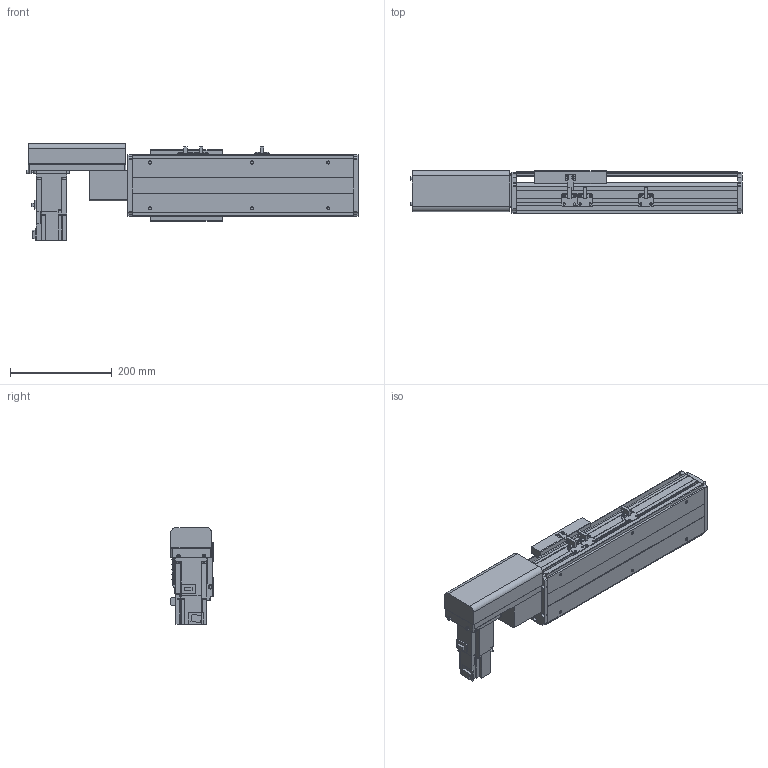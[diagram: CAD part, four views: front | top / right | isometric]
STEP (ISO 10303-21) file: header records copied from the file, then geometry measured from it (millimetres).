
FILE_DESCRIPTION( ( 'STEP AP214' ), '1' );
FILE_NAME( 'x:/temp/worker_27/temp/exporttempdir_6708_0_RRjFf/format_0/PBS120-P40-S150-R-T40-C1-N(0).stp', '2022-06-06T00:05:17', ( 'License CC BY-ND 4.0' ), ( 'CADENAS' ), ' ', 'PARTsolutions', ' ' );
FILE_SCHEMA( ( 'AUTOMOTIVE_DESIGN { 1 0 10303 214 1 1 1 1 }' ) );
Length unit declared in the file: millimetre
Products named in the file (7): PBS120-P40-S150-R-T40-C1-N(0); _PBS120-S150()_body; _PBS120T-R_motors; _T40-p1; _PBS120_sliser; _PBS120_plant; _PBS120_sensor
Assembly tree (8 placements, depth 2):
  PBS120-P40-S150-R-T40-C1-N(0)
    _PBS120-S150()_body
    _PBS120T-R_motors
    _T40-p1
    _PBS120_sliser
    _PBS120_plant
    _PBS120_sensor  x3
Bounding box: 651 x 83 x 189.7 mm (x, y, z)
Volume: 3194587.3 mm3; surface area: 553299.2 mm2
Topology: 8 solids, 8 shells, 798 faces, 2106 edges, 1357 vertices
Faces by surface type: plane 539, cylinder 219, cone 38, torus 2
Full cylindrical faces by diameter (mm): 2.459 x6, 3.242 x4, 4 x2, 4.134 x4, 4.5 x10, 4.917 x10, 5.5 x11, 6 x2, 6.6 x1, 7 x2, 8.5 x4, 9 x4, 12 x1, 14 x1, 30 x2, 40 x1, 50 x2
Entity records: 26484 total; most frequent: DIRECTION 3620, CARTESIAN_POINT 3587, ORIENTED_EDGE 3442, EDGE_CURVE 1721, LINE 1228, VECTOR 1228, AXIS2_PLACEMENT_3D 1196, VERTEX_POINT 1163
